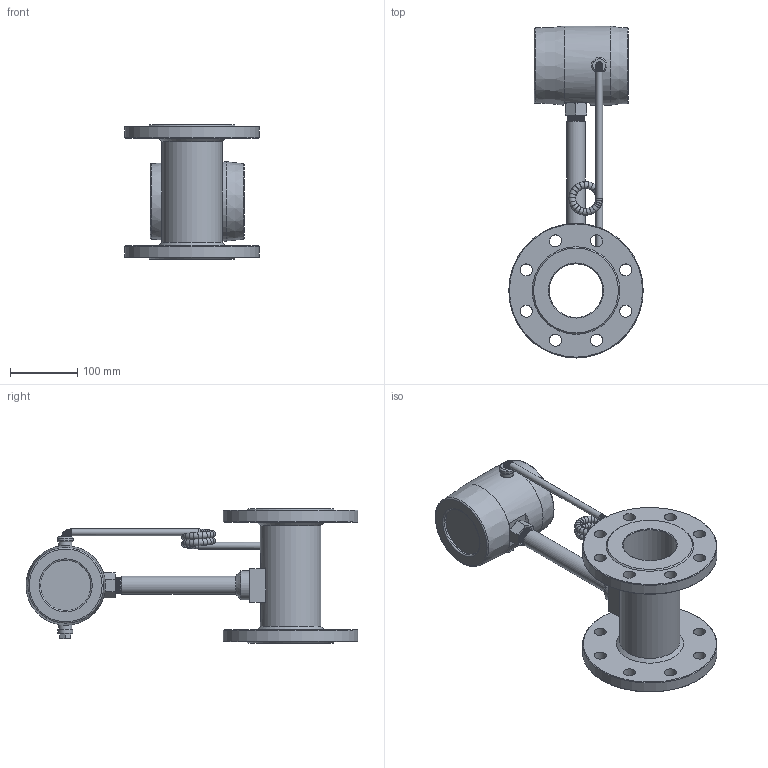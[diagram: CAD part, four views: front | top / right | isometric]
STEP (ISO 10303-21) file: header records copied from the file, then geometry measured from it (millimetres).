
FILE_DESCRIPTION( (''), '2;1');
FILE_NAME( 'QWKA_DN80_flange.step', '2023-06-15T20:26:40+08:00', (''), (''), '', '', '');
FILE_SCHEMA (('CONFIG_CONTROL_DESIGN'));
Length unit declared in the file: millimetre
Products named in the file (1): QWKA DN80_flange
Bounding box: 200 x 493.5 x 200 mm (x, y, z)
Volume: 2734032.2 mm3; surface area: 370318.7 mm2
Topology: 3 solids, 3 shells, 228 faces, 567 edges, 365 vertices
Faces by surface type: torus 89, plane 53, cylinder 51, cone 30, bspline 5
Full cylindrical faces by diameter (mm): 4.2 x4, 6 x4, 10 x3, 18 x16, 19 x1, 20 x3, 22 x1, 23 x1, 27 x1, 28 x1, 40 x1, 43 x1, 75 x1, 80 x1, 90 x1, 118 x1, 200 x2
Entity records: 13682 total; most frequent: CARTESIAN_POINT 8839, DIRECTION 955, ORIENTED_EDGE 860, AXIS2_PLACEMENT_3D 451, EDGE_CURVE 430, EDGE_LOOP 392, VERTEX_POINT 334, FACE_BOUND 286
